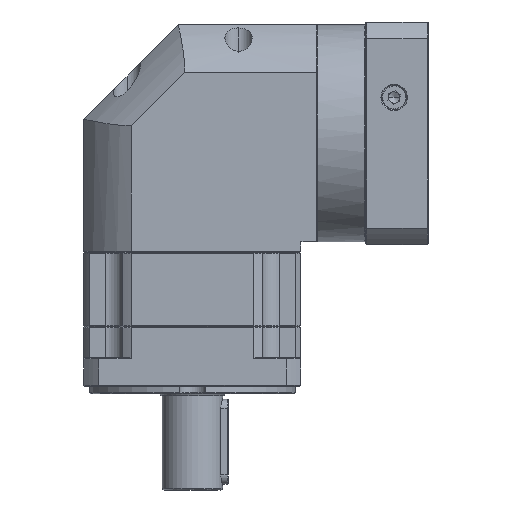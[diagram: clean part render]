
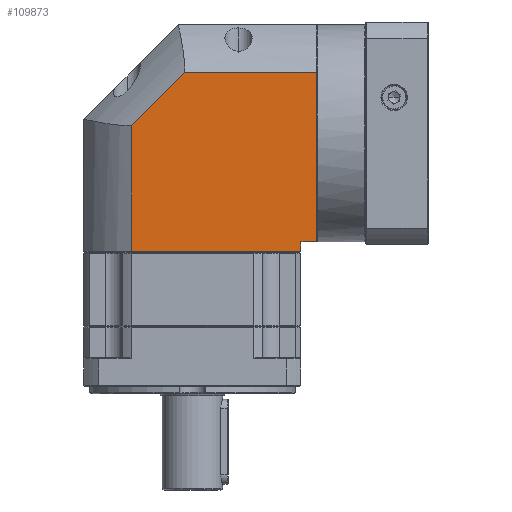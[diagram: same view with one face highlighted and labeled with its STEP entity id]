
A CAD part, front view. The second image highlights one B-rep face of the part: STEP entity #109873.
In plain terms, the highlighted planar face has unit normal (0, -1, 0).
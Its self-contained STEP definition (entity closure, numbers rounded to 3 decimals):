
#4229 = AXIS2_PLACEMENT_3D ( 'NONE', #83291, #81423, #30160 ) ;
#8253 = VERTEX_POINT ( 'NONE', #36500 ) ;
#10371 = EDGE_CURVE ( 'NONE', #40882, #119861, #129082, .T. ) ;
#12319 = ORIENTED_EDGE ( 'NONE', *, *, #119081, .F. ) ;
#14048 = VERTEX_POINT ( 'NONE', #109430 ) ;
#14917 = DIRECTION ( 'NONE',  ( 1., 0., 0. ) ) ;
#16022 = LINE ( 'NONE', #112991, #49390 ) ;
#24564 = ORIENTED_EDGE ( 'NONE', *, *, #114113, .F. ) ;
#25077 = LINE ( 'NONE', #58261, #45146 ) ;
#25341 = ORIENTED_EDGE ( 'NONE', *, *, #115359, .F. ) ;
#28007 = CARTESIAN_POINT ( 'NONE',  ( -98.335, -96.78, 183.002 ) ) ;
#28947 = DIRECTION ( 'NONE',  ( -1., 0., 0. ) ) ;
#29304 = VECTOR ( 'NONE', #67151, 1000. ) ;
#30160 = DIRECTION ( 'NONE',  ( 1., 0., 0. ) ) ;
#32528 = ORIENTED_EDGE ( 'NONE', *, *, #10371, .F. ) ;
#33033 = FACE_OUTER_BOUND ( 'NONE', #67506, .T. ) ;
#36500 = CARTESIAN_POINT ( 'NONE',  ( -196.635, -96.78, 256.064 ) ) ;
#36889 = CARTESIAN_POINT ( 'NONE',  ( -221.735, -96.78, 284.402 ) ) ;
#40008 = ORIENTED_EDGE ( 'NONE', *, *, #137397, .F. ) ;
#40583 = LINE ( 'NONE', #28007, #67163 ) ;
#40617 = CARTESIAN_POINT ( 'NONE',  ( -221.735, -96.78, 194.502 ) ) ;
#40882 = VERTEX_POINT ( 'NONE', #75973 ) ;
#45146 = VECTOR ( 'NONE', #100399, 1000. ) ;
#49390 = VECTOR ( 'NONE', #101350, 1000. ) ;
#58261 = CARTESIAN_POINT ( 'NONE',  ( -106.735, -96.78, 183.002 ) ) ;
#59002 = EDGE_CURVE ( 'NONE', #14048, #61746, #16022, .T. ) ;
#61746 = VERTEX_POINT ( 'NONE', #86259 ) ;
#67151 = DIRECTION ( 'NONE',  ( 0., 0., 1. ) ) ;
#67163 = VECTOR ( 'NONE', #102749, 1000. ) ;
#67506 = EDGE_LOOP ( 'NONE', ( #24564, #110902, #12319, #32528, #40008, #25341, #100175 ) ) ;
#67623 = CARTESIAN_POINT ( 'NONE',  ( -196.635, -96.78, 183.002 ) ) ;
#68674 = LINE ( 'NONE', #40617, #135619 ) ;
#75973 = CARTESIAN_POINT ( 'NONE',  ( -168.297, -96.78, 284.402 ) ) ;
#76022 = LINE ( 'NONE', #67623, #29304 ) ;
#81423 = DIRECTION ( 'NONE',  ( 0., 1., 0. ) ) ;
#83291 = CARTESIAN_POINT ( 'NONE',  ( -221.735, -96.78, 183.002 ) ) ;
#86259 = CARTESIAN_POINT ( 'NONE',  ( -196.635, -96.78, 189.502 ) ) ;
#86523 = CARTESIAN_POINT ( 'NONE',  ( -106.735, -96.78, 194.502 ) ) ;
#91977 = VECTOR ( 'NONE', #98515, 1000. ) ;
#94106 = PLANE ( 'NONE',  #4229 ) ;
#97673 = VERTEX_POINT ( 'NONE', #86523 ) ;
#98515 = DIRECTION ( 'NONE',  ( 0.707, 0., 0.707 ) ) ;
#100175 = ORIENTED_EDGE ( 'NONE', *, *, #59002, .F. ) ;
#100399 = DIRECTION ( 'NONE',  ( 0., 0., -1. ) ) ;
#101350 = DIRECTION ( 'NONE',  ( -1., 0., 0. ) ) ;
#102046 = LINE ( 'NONE', #120001, #91977 ) ;
#102749 = DIRECTION ( 'NONE',  ( 0., 0., -1. ) ) ;
#109430 = CARTESIAN_POINT ( 'NONE',  ( -106.735, -96.78, 189.502 ) ) ;
#109873 = ADVANCED_FACE ( 'NONE', ( #33033 ), #94106, .F. ) ;
#110902 = ORIENTED_EDGE ( 'NONE', *, *, #111948, .F. ) ;
#111948 = EDGE_CURVE ( 'NONE', #119846, #97673, #68674, .T. ) ;
#112991 = CARTESIAN_POINT ( 'NONE',  ( -221.735, -96.78, 189.502 ) ) ;
#114113 = EDGE_CURVE ( 'NONE', #97673, #14048, #25077, .T. ) ;
#115359 = EDGE_CURVE ( 'NONE', #61746, #8253, #76022, .T. ) ;
#119081 = EDGE_CURVE ( 'NONE', #119861, #119846, #40583, .T. ) ;
#119846 = VERTEX_POINT ( 'NONE', #125874 ) ;
#119861 = VERTEX_POINT ( 'NONE', #137985 ) ;
#120001 = CARTESIAN_POINT ( 'NONE',  ( -196.635, -96.78, 256.064 ) ) ;
#125874 = CARTESIAN_POINT ( 'NONE',  ( -98.335, -96.78, 194.502 ) ) ;
#129082 = LINE ( 'NONE', #36889, #132419 ) ;
#132419 = VECTOR ( 'NONE', #14917, 1000. ) ;
#135619 = VECTOR ( 'NONE', #28947, 1000. ) ;
#137397 = EDGE_CURVE ( 'NONE', #8253, #40882, #102046, .T. ) ;
#137985 = CARTESIAN_POINT ( 'NONE',  ( -98.335, -96.78, 284.402 ) ) ;
